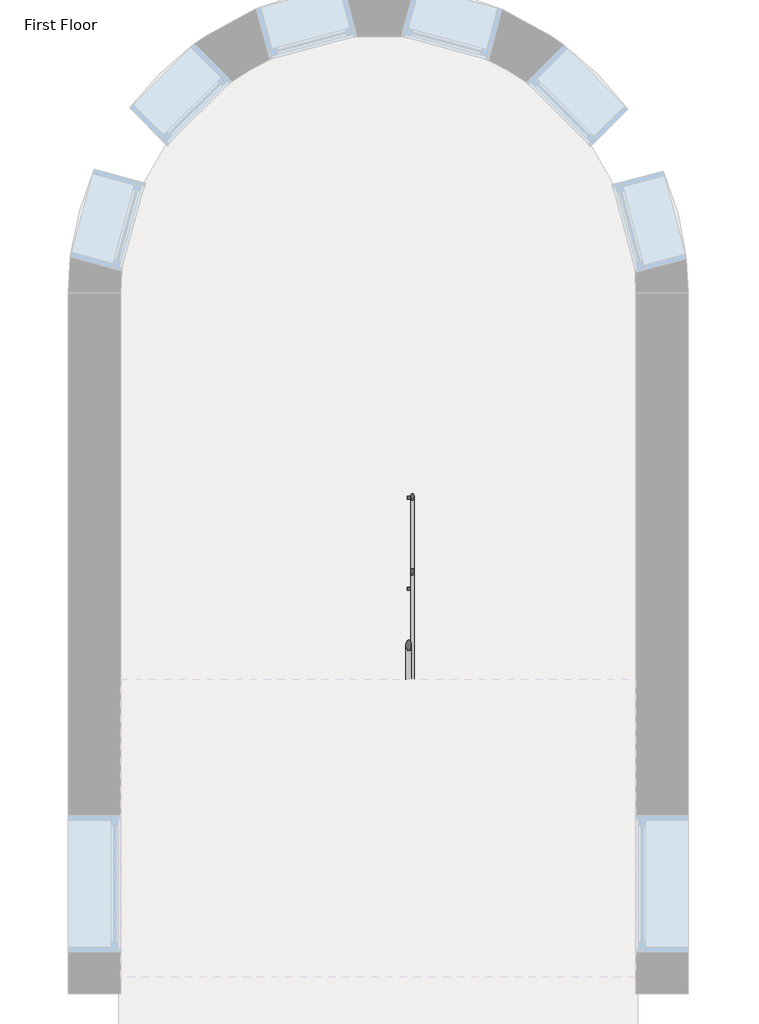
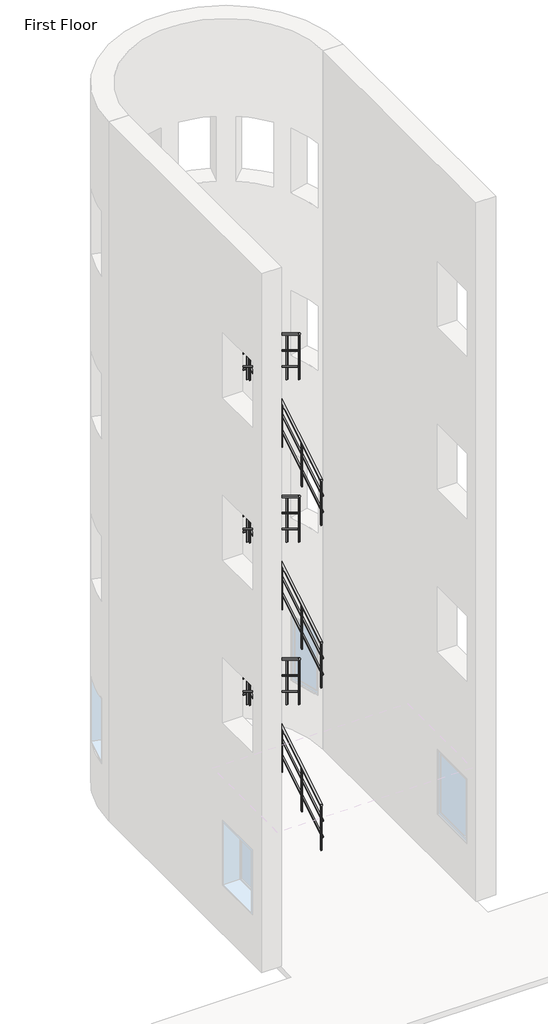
# One storey, part 22 of 24: 1 railing.
"""IFC4 building model written with IfcOpenShell, lengths in millimetres."""

from ifc_helpers import new_model, si_unit, frame, origin, place, context, project, spatial, polyline, circle_curve, ellipse_curve, outline, extrude, element, save
from ifc_brep_helpers import plane_surface, cylinder_surface, advanced_brep

model = new_model("IFC4")

# Units and contexts
model_context = context("Model", 3, world=origin())
ifc_project = project(units=[si_unit("LENGTHUNIT", "METRE", prefix="MILLI")], contexts=[model_context])

# Site, building, storey
site = spatial("IfcSite", under=ifc_project)
building = spatial("IfcBuilding", under=site)
storey = spatial("IfcBuildingStorey", under=building, Name="First Floor", Elevation=0.0)

# Railing
placement = place(None, origin())
element("IfcRailing", 1, ObjectType="Handrail - Rectangular", at=placement, inside=storey, context=model_context, shape_type="SolidModel", body=[
    advanced_brep(
    [(-14693.8714563, 6636.2316867, 6860.0829683), (-14719.2714563, 6636.2316867, 6860.0829683), (-14693.8714563, 8858.7316867, 8207.0526652), (-14719.2714563, 8858.7316867, 8207.0526652)],
    [
        (0, 1, ellipse_curve(frame((-14706.5714563, 6636.2316867, 6860.0829683), z_axis=(0.0, -1.0, 0.0), x_axis=(0.0, 0.0, -1.0)), 14.8503651, 12.7)),
        (1, 0, ellipse_curve(frame((-14706.5714563, 6636.2316867, 6860.0829683), z_axis=(0.0, -1.0, 0.0), x_axis=(0.0, 0.0, -1.0)), 14.8503651, 12.7)),
        (2, 3, ellipse_curve(frame((-14706.5714563, 8858.7316867, 8207.0526652), z_axis=(0.0, 1.0, 0.0), x_axis=(0.0, 0.0, -1.0)), 14.8503651, 12.7)),
        (3, 2, ellipse_curve(frame((-14706.5714563, 8858.7316867, 8207.0526652), z_axis=(0.0, 1.0, 0.0), x_axis=(0.0, 0.0, -1.0)), 14.8503651, 12.7)),
        (0, 2),
        (3, 1),
    ],
    [
        plane_surface(frame((-14706.5714563, 6636.2316867, 6874.9333333), z_axis=(0.0, -1.0, 0.0), x_axis=(0.0, 0.0, 1.0))),
        plane_surface(frame((-14706.5714563, 8858.7316867, 8221.9030303), z_axis=(0.0, 1.0, 0.0), x_axis=(0.0, 0.0, 1.0))),
        cylinder_surface(frame((-14706.5714563, 6642.8141185, 6864.0723209), z_axis=(0.0, -0.8551978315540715, -0.518301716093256), x_axis=(-1.0, 0.0, 0.0)), 12.7),
    ],
    [
        (0, [[1, 2]]),
        (1, [[3, 4]]),
        (2, [[-1, 5, -4, 6]]),
        (2, [[-2, -6, -3, -5]]),
    ],
),
    advanced_brep(
    [(-14693.8714563, 8884.1316867, 8216.9), (-14693.8714563, 8858.7316867, 8216.9), (-15136.7839563, 8884.1316867, 8216.9), (-15136.7839563, 8858.7316867, 8216.9)],
    [
        (0, 1, circle_curve(frame((-14693.8714563, 8871.4316867, 8216.9), z_axis=(1.0, 0.0, 0.0), x_axis=(0.0, -1.0, 0.0)), 12.7)),
        (1, 0, circle_curve(frame((-14693.8714563, 8871.4316867, 8216.9), z_axis=(1.0, 0.0, 0.0), x_axis=(0.0, -1.0, 0.0)), 12.7)),
        (2, 3, circle_curve(frame((-15136.7839563, 8871.4316867, 8216.9), z_axis=(-1.0, 0.0, 0.0), x_axis=(0.0, -1.0, 0.0)), 12.7)),
        (3, 2, circle_curve(frame((-15136.7839563, 8871.4316867, 8216.9), z_axis=(-1.0, 0.0, 0.0), x_axis=(0.0, -1.0, 0.0)), 12.7)),
        (0, 2),
        (3, 1),
    ],
    [
        plane_surface(frame((-14693.8714563, 8871.4316867, 8229.6), z_axis=(1.0, 0.0, 0.0), x_axis=(0.0, -1.0, 0.0))),
        plane_surface(frame((-15136.7839563, 8871.4316867, 8229.6), z_axis=(-1.0, 0.0, 0.0), x_axis=(0.0, -1.0, 0.0))),
        cylinder_surface(frame((-14693.8714563, 8871.4316867, 8216.9), z_axis=(1.0, 0.0, 0.0), x_axis=(0.0, -1.0, 0.0)), 12.7),
    ],
    [
        (0, [[1, 2]]),
        (1, [[3, 4]]),
        (2, [[-1, 5, -4, 6]]),
        (2, [[-2, -6, -3, -5]]),
    ],
),
    advanced_brep(
    [(-15162.1839563, 8884.1316867, 8376.3859986), (-15136.7839563, 8884.1316867, 8376.3859986), (-15162.1839563, 6636.2316867, 9738.7496349), (-15136.7839563, 6636.2316867, 9738.7496349)],
    [
        (0, 1, ellipse_curve(frame((-15149.4839563, 8884.1316867, 8376.3859986), z_axis=(0.0, 1.0, 0.0), x_axis=(0.0, 0.0, -1.0)), 14.8503651, 12.7)),
        (1, 0, ellipse_curve(frame((-15149.4839563, 8884.1316867, 8376.3859986), z_axis=(0.0, 1.0, 0.0), x_axis=(0.0, 0.0, -1.0)), 14.8503651, 12.7)),
        (2, 3, ellipse_curve(frame((-15149.4839563, 6636.2316867, 9738.7496349), z_axis=(0.0, -1.0, 0.0), x_axis=(0.0, 0.0, -1.0)), 14.8503651, 12.7)),
        (3, 2, ellipse_curve(frame((-15149.4839563, 6636.2316867, 9738.7496349), z_axis=(0.0, -1.0, 0.0), x_axis=(0.0, 0.0, -1.0)), 14.8503651, 12.7)),
        (0, 2),
        (3, 1),
    ],
    [
        plane_surface(frame((-15149.4839563, 8884.1316867, 8391.2363636), z_axis=(0.0, 1.0, 0.0), x_axis=(0.0, 0.0, -1.0))),
        plane_surface(frame((-15149.4839563, 6636.2316867, 9753.6), z_axis=(0.0, -1.0, 0.0), x_axis=(0.0, 0.0, -1.0))),
        cylinder_surface(frame((-15149.4839563, 8877.5492549, 8380.3753512), z_axis=(0.0, 0.8551978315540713, -0.5183017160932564), x_axis=(1.0, 0.0, 0.0)), 12.7),
    ],
    [
        (0, [[1, 2]]),
        (1, [[3, 4]]),
        (2, [[-1, 5, -4, 6]]),
        (2, [[-2, -6, -3, -5]]),
    ],
),
    advanced_brep(
    [(-14693.8714563, 6636.2316867, 6555.2829683), (-14719.2714563, 6636.2316867, 6555.2829683), (-14693.8714563, 8858.7316867, 7902.2526652), (-14719.2714563, 8858.7316867, 7902.2526652)],
    [
        (0, 1, ellipse_curve(frame((-14706.5714563, 6636.2316867, 6555.2829683), z_axis=(0.0, -1.0, 0.0), x_axis=(0.0, 0.0, -1.0)), 14.8503651, 12.7)),
        (1, 0, ellipse_curve(frame((-14706.5714563, 6636.2316867, 6555.2829683), z_axis=(0.0, -1.0, 0.0), x_axis=(0.0, 0.0, -1.0)), 14.8503651, 12.7)),
        (2, 3, ellipse_curve(frame((-14706.5714563, 8858.7316867, 7902.2526652), z_axis=(0.0, 1.0, 0.0), x_axis=(0.0, 0.0, -1.0)), 14.8503651, 12.7)),
        (3, 2, ellipse_curve(frame((-14706.5714563, 8858.7316867, 7902.2526652), z_axis=(0.0, 1.0, 0.0), x_axis=(0.0, 0.0, -1.0)), 14.8503651, 12.7)),
        (0, 2),
        (3, 1),
    ],
    [
        plane_surface(frame((-14706.5714563, 6636.2316867, 6570.1333333), z_axis=(0.0, -1.0, 0.0), x_axis=(0.0, 0.0, 1.0))),
        plane_surface(frame((-14706.5714563, 8858.7316867, 7917.1030303), z_axis=(0.0, 1.0, 0.0), x_axis=(0.0, 0.0, 1.0))),
        cylinder_surface(frame((-14706.5714563, 6642.8141185, 6559.2723209), z_axis=(0.0, -0.8551978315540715, -0.518301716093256), x_axis=(-1.0, 0.0, 0.0)), 12.7),
    ],
    [
        (0, [[1, 2]]),
        (1, [[3, 4]]),
        (2, [[-1, 5, -4, 6]]),
        (2, [[-2, -6, -3, -5]]),
    ],
),
    advanced_brep(
    [(-14693.8714563, 8884.1316867, 7912.1), (-14693.8714563, 8858.7316867, 7912.1), (-15136.7839563, 8884.1316867, 7912.1), (-15136.7839563, 8858.7316867, 7912.1)],
    [
        (0, 1, circle_curve(frame((-14693.8714563, 8871.4316867, 7912.1), z_axis=(1.0, 0.0, 0.0), x_axis=(0.0, -1.0, 0.0)), 12.7)),
        (1, 0, circle_curve(frame((-14693.8714563, 8871.4316867, 7912.1), z_axis=(1.0, 0.0, 0.0), x_axis=(0.0, -1.0, 0.0)), 12.7)),
        (2, 3, circle_curve(frame((-15136.7839563, 8871.4316867, 7912.1), z_axis=(-1.0, 0.0, 0.0), x_axis=(0.0, -1.0, 0.0)), 12.7)),
        (3, 2, circle_curve(frame((-15136.7839563, 8871.4316867, 7912.1), z_axis=(-1.0, 0.0, 0.0), x_axis=(0.0, -1.0, 0.0)), 12.7)),
        (0, 2),
        (3, 1),
    ],
    [
        plane_surface(frame((-14693.8714563, 8871.4316867, 7924.8), z_axis=(1.0, 0.0, 0.0), x_axis=(0.0, -1.0, 0.0))),
        plane_surface(frame((-15136.7839563, 8871.4316867, 7924.8), z_axis=(-1.0, 0.0, 0.0), x_axis=(0.0, -1.0, 0.0))),
        cylinder_surface(frame((-14693.8714563, 8871.4316867, 7912.1), z_axis=(1.0, 0.0, 0.0), x_axis=(0.0, -1.0, 0.0)), 12.7),
    ],
    [
        (0, [[1, 2]]),
        (1, [[3, 4]]),
        (2, [[-1, 5, -4, 6]]),
        (2, [[-2, -6, -3, -5]]),
    ],
),
    advanced_brep(
    [(-15162.1839563, 8884.1316867, 8071.5859986), (-15136.7839563, 8884.1316867, 8071.5859986), (-15162.1839563, 6636.2316867, 9433.9496349), (-15136.7839563, 6636.2316867, 9433.9496349)],
    [
        (0, 1, ellipse_curve(frame((-15149.4839563, 8884.1316867, 8071.5859986), z_axis=(0.0, 1.0, 0.0), x_axis=(0.0, 0.0, -1.0)), 14.8503651, 12.7)),
        (1, 0, ellipse_curve(frame((-15149.4839563, 8884.1316867, 8071.5859986), z_axis=(0.0, 1.0, 0.0), x_axis=(0.0, 0.0, -1.0)), 14.8503651, 12.7)),
        (2, 3, ellipse_curve(frame((-15149.4839563, 6636.2316867, 9433.9496349), z_axis=(0.0, -1.0, 0.0), x_axis=(0.0, 0.0, -1.0)), 14.8503651, 12.7)),
        (3, 2, ellipse_curve(frame((-15149.4839563, 6636.2316867, 9433.9496349), z_axis=(0.0, -1.0, 0.0), x_axis=(0.0, 0.0, -1.0)), 14.8503651, 12.7)),
        (0, 2),
        (3, 1),
    ],
    [
        plane_surface(frame((-15149.4839563, 8884.1316867, 8086.4363636), z_axis=(0.0, 1.0, 0.0), x_axis=(0.0, 0.0, -1.0))),
        plane_surface(frame((-15149.4839563, 6636.2316867, 9448.8), z_axis=(0.0, -1.0, 0.0), x_axis=(0.0, 0.0, -1.0))),
        cylinder_surface(frame((-15149.4839563, 8877.5492549, 8075.5753512), z_axis=(0.0, 0.8551978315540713, -0.5183017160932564), x_axis=(1.0, 0.0, 0.0)), 12.7),
    ],
    [
        (0, [[1, 2]]),
        (1, [[3, 4]]),
        (2, [[-1, 5, -4, 6]]),
        (2, [[-2, -6, -3, -5]]),
    ],
),
    advanced_brep(
    [(-14712.9214563, 6636.2316867, 7157.4577857), (-14751.0214563, 6636.2316867, 7157.4577857), (-14712.9214563, 8826.9816867, 8485.1850584), (-14751.0214563, 8826.9816867, 8485.1850584)],
    [
        (0, 1, ellipse_curve(frame((-14731.9714563, 6636.2316867, 7157.4577857), z_axis=(0.0, -1.0, 0.0), x_axis=(0.0, 0.0, -1.0)), 22.2755476, 19.05)),
        (1, 0, ellipse_curve(frame((-14731.9714563, 6636.2316867, 7157.4577857), z_axis=(0.0, -1.0, 0.0), x_axis=(0.0, 0.0, -1.0)), 22.2755476, 19.05)),
        (2, 3, ellipse_curve(frame((-14731.9714563, 8826.9816867, 8485.1850584), z_axis=(0.0, 1.0, 0.0), x_axis=(0.0, 0.0, -1.0)), 22.2755476, 19.05)),
        (3, 2, ellipse_curve(frame((-14731.9714563, 8826.9816867, 8485.1850584), z_axis=(0.0, 1.0, 0.0), x_axis=(0.0, 0.0, -1.0)), 22.2755476, 19.05)),
        (0, 2),
        (3, 1),
    ],
    [
        plane_surface(frame((-14731.9714563, 6636.2316867, 7179.7333333), z_axis=(0.0, -1.0, 0.0), x_axis=(0.0, 0.0, 1.0))),
        plane_surface(frame((-14731.9714563, 8826.9816867, 8507.460606), z_axis=(0.0, 1.0, 0.0), x_axis=(0.0, 0.0, 1.0))),
        cylinder_surface(frame((-14731.9714563, 6646.1053344, 7163.4418146), z_axis=(0.0, -0.8551978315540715, -0.518301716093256), x_axis=(-1.0, 0.0, 0.0)), 19.05),
    ],
    [
        (0, [[1, 2]]),
        (1, [[3, 4]]),
        (2, [[-1, 5, -4, 6]]),
        (2, [[-2, -6, -3, -5]]),
    ],
),
    advanced_brep(
    [(-14712.9214563, 8865.0816867, 8515.35), (-14712.9214563, 8826.9816867, 8515.35), (-15105.0339563, 8865.0816867, 8515.35), (-15105.0339563, 8826.9816867, 8515.35)],
    [
        (0, 1, circle_curve(frame((-14712.9214563, 8846.0316867, 8515.35), z_axis=(1.0, 0.0, 0.0), x_axis=(0.0, -1.0, 0.0)), 19.05)),
        (1, 0, circle_curve(frame((-14712.9214563, 8846.0316867, 8515.35), z_axis=(1.0, 0.0, 0.0), x_axis=(0.0, -1.0, 0.0)), 19.05)),
        (2, 3, circle_curve(frame((-15105.0339563, 8846.0316867, 8515.35), z_axis=(-1.0, 0.0, 0.0), x_axis=(0.0, -1.0, 0.0)), 19.05)),
        (3, 2, circle_curve(frame((-15105.0339563, 8846.0316867, 8515.35), z_axis=(-1.0, 0.0, 0.0), x_axis=(0.0, -1.0, 0.0)), 19.05)),
        (0, 2),
        (3, 1),
    ],
    [
        plane_surface(frame((-14712.9214563, 8846.0316867, 8534.4), z_axis=(1.0, 0.0, 0.0), x_axis=(0.0, -1.0, 0.0))),
        plane_surface(frame((-15105.0339563, 8846.0316867, 8534.4), z_axis=(-1.0, 0.0, 0.0), x_axis=(0.0, -1.0, 0.0))),
        cylinder_surface(frame((-14712.9214563, 8846.0316867, 8515.35), z_axis=(1.0, 0.0, 0.0), x_axis=(0.0, -1.0, 0.0)), 19.05),
    ],
    [
        (0, [[1, 2]]),
        (1, [[3, 4]]),
        (2, [[-1, 5, -4, 6]]),
        (2, [[-2, -6, -3, -5]]),
    ],
),
    advanced_brep(
    [(-15143.1339563, 8865.0816867, 8685.3062706), (-15105.0339563, 8865.0816867, 8685.3062706), (-15143.1339563, 6636.2316867, 10036.1244524), (-15105.0339563, 6636.2316867, 10036.1244524)],
    [
        (0, 1, ellipse_curve(frame((-15124.0839563, 8865.0816867, 8685.3062706), z_axis=(0.0, 1.0, 0.0), x_axis=(0.0, 0.0, -1.0)), 22.2755476, 19.05)),
        (1, 0, ellipse_curve(frame((-15124.0839563, 8865.0816867, 8685.3062706), z_axis=(0.0, 1.0, 0.0), x_axis=(0.0, 0.0, -1.0)), 22.2755476, 19.05)),
        (2, 3, ellipse_curve(frame((-15124.0839563, 6636.2316867, 10036.1244524), z_axis=(0.0, -1.0, 0.0), x_axis=(0.0, 0.0, -1.0)), 22.2755476, 19.05)),
        (3, 2, ellipse_curve(frame((-15124.0839563, 6636.2316867, 10036.1244524), z_axis=(0.0, -1.0, 0.0), x_axis=(0.0, 0.0, -1.0)), 22.2755476, 19.05)),
        (0, 2),
        (3, 1),
    ],
    [
        plane_surface(frame((-15124.0839563, 8865.0816867, 8707.5818182), z_axis=(0.0, 1.0, 0.0), x_axis=(0.0, 0.0, -1.0))),
        plane_surface(frame((-15124.0839563, 6636.2316867, 10058.4), z_axis=(0.0, -1.0, 0.0), x_axis=(0.0, 0.0, -1.0))),
        cylinder_surface(frame((-15124.0839563, 8855.208039, 8691.2902995), z_axis=(0.0, 0.8551978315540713, -0.5183017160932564), x_axis=(1.0, 0.0, 0.0)), 19.05),
    ],
    [
        (0, [[1, 2]]),
        (1, [[3, 4]]),
        (2, [[-1, 5, -4, 6]]),
        (2, [[-2, -6, -3, -5]]),
    ],
),
    extrude(outline(polyline([(7026.7566867, 9777.1670866), (7026.7566867, 8950.0993604), (7007.7066867, 8961.644815), (7007.7066867, 9788.7125412), (7026.7566867, 9777.1670866)])), frame((-15133.6089563, 0.0, 0.0), z_axis=(1.0, 0.0, 0.0), x_axis=(0.0, 1.0, 0.0)), (0.0, 0.0, 1.0), 19.05),
    extrude(outline(polyline([(7636.3566867, 9407.7125412), (7636.3566867, 8580.644815), (7617.3066867, 8592.1902695), (7617.3066867, 9419.2579957), (7636.3566867, 9407.7125412)])), frame((-15133.6089563, 0.0, 0.0), z_axis=(1.0, 0.0, 0.0), x_axis=(0.0, 1.0, 0.0)), (0.0, 0.0, 1.0), 19.05),
    extrude(outline(polyline([(8245.9566867, 9038.2579957), (8245.9566867, 8211.1902695), (8226.9066867, 8222.7357241), (8226.9066867, 9049.8034502), (8245.9566867, 9038.2579957)])), frame((-15133.6089563, 0.0, 0.0), z_axis=(1.0, 0.0, 0.0), x_axis=(0.0, 1.0, 0.0)), (0.0, 0.0, 1.0), 19.05),
    extrude(outline(polyline([(8474.5566867, 8249.3186018), (8474.5566867, 7422.2508756), (8455.5066867, 7410.705421), (8455.5066867, 8237.7731472), (8474.5566867, 8249.3186018)])), frame((-14741.4964563, 0.0, 0.0), z_axis=(1.0, 0.0, 0.0), x_axis=(0.0, 1.0, 0.0)), (0.0, 0.0, 1.0), 19.05),
    extrude(outline(polyline([(7864.9566867, 7879.8640563), (7864.9566867, 7052.7963301), (7845.9066867, 7041.2508756), (7845.9066867, 7868.3186018), (7864.9566867, 7879.8640563)])), frame((-14741.4964563, 0.0, 0.0), z_axis=(1.0, 0.0, 0.0), x_axis=(0.0, 1.0, 0.0)), (0.0, 0.0, 1.0), 19.05),
    extrude(outline(polyline([(7255.3566867, 7510.4095109), (7255.3566867, 6683.3417847), (7236.3066867, 6671.7963301), (7236.3066867, 7498.8640563), (7255.3566867, 7510.4095109)])), frame((-14741.4964563, 0.0, 0.0), z_axis=(1.0, 0.0, 0.0), x_axis=(0.0, 1.0, 0.0)), (0.0, 0.0, 1.0), 19.05),
    extrude(outline(polyline([(8855.5566867, 8668.8034502), (8855.5566867, 7841.7357241), (8836.5066867, 7853.2811786), (8836.5066867, 8680.3489048), (8855.5566867, 8668.8034502)])), frame((-15133.6089563, 0.0, 0.0), z_axis=(1.0, 0.0, 0.0), x_axis=(0.0, 1.0, 0.0)), (0.0, 0.0, 1.0), 19.05),
    extrude(outline(polyline([(-14722.4464563, 8836.5066867), (-14741.4964563, 8836.5066867), (-14741.4964563, 8855.5566867), (-14722.4464563, 8855.5566867), (-14722.4464563, 8836.5066867)])), frame((0.0, 0.0, 7696.2), z_axis=(0.0, 0.0, 1.0), x_axis=(1.0, 0.0, 0.0)), (0.0, 0.0, 1.0), 800.1),
    extrude(outline(polyline([(6655.2816867, 10002.3034502), (6655.2816867, 9175.2357241), (6636.2316867, 9186.7811786), (6636.2316867, 10013.8489048), (6655.2816867, 10002.3034502)])), frame((-15133.6089563, 0.0, 0.0), z_axis=(1.0, 0.0, 0.0), x_axis=(0.0, 1.0, 0.0)), (0.0, 0.0, 1.0), 19.05),
    extrude(outline(polyline([(6655.2816867, 7146.7276927), (6655.2816867, 6319.6599665), (6636.2316867, 6308.1145119), (6636.2316867, 7135.1822381), (6655.2816867, 7146.7276927)])), frame((-14741.4964563, 0.0, 0.0), z_axis=(1.0, 0.0, 0.0), x_axis=(0.0, 1.0, 0.0)), (0.0, 0.0, 1.0), 19.05),
    advanced_brep(
    [(-14693.8714563, 6636.2316867, 3812.0829683), (-14719.2714563, 6636.2316867, 3812.0829683), (-14693.8714563, 8858.7316867, 5159.0526652), (-14719.2714563, 8858.7316867, 5159.0526652)],
    [
        (0, 1, ellipse_curve(frame((-14706.5714563, 6636.2316867, 3812.0829683), z_axis=(0.0, -1.0, 0.0), x_axis=(0.0, 0.0, -1.0)), 14.8503651, 12.7)),
        (1, 0, ellipse_curve(frame((-14706.5714563, 6636.2316867, 3812.0829683), z_axis=(0.0, -1.0, 0.0), x_axis=(0.0, 0.0, -1.0)), 14.8503651, 12.7)),
        (2, 3, ellipse_curve(frame((-14706.5714563, 8858.7316867, 5159.0526652), z_axis=(0.0, 1.0, 0.0), x_axis=(0.0, 0.0, -1.0)), 14.8503651, 12.7)),
        (3, 2, ellipse_curve(frame((-14706.5714563, 8858.7316867, 5159.0526652), z_axis=(0.0, 1.0, 0.0), x_axis=(0.0, 0.0, -1.0)), 14.8503651, 12.7)),
        (0, 2),
        (3, 1),
    ],
    [
        plane_surface(frame((-14706.5714563, 6636.2316867, 3826.9333333), z_axis=(0.0, -1.0, 0.0), x_axis=(0.0, 0.0, 1.0))),
        plane_surface(frame((-14706.5714563, 8858.7316867, 5173.9030303), z_axis=(0.0, 1.0, 0.0), x_axis=(0.0, 0.0, 1.0))),
        cylinder_surface(frame((-14706.5714563, 6642.8141185, 3816.0723209), z_axis=(0.0, -0.8551978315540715, -0.518301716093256), x_axis=(-1.0, 0.0, 0.0)), 12.7),
    ],
    [
        (0, [[1, 2]]),
        (1, [[3, 4]]),
        (2, [[-1, 5, -4, 6]]),
        (2, [[-2, -6, -3, -5]]),
    ],
),
    advanced_brep(
    [(-14693.8714563, 8884.1316867, 5168.9), (-14693.8714563, 8858.7316867, 5168.9), (-15136.7839563, 8884.1316867, 5168.9), (-15136.7839563, 8858.7316867, 5168.9)],
    [
        (0, 1, circle_curve(frame((-14693.8714563, 8871.4316867, 5168.9), z_axis=(1.0, 0.0, 0.0), x_axis=(0.0, -1.0, 0.0)), 12.7)),
        (1, 0, circle_curve(frame((-14693.8714563, 8871.4316867, 5168.9), z_axis=(1.0, 0.0, 0.0), x_axis=(0.0, -1.0, 0.0)), 12.7)),
        (2, 3, circle_curve(frame((-15136.7839563, 8871.4316867, 5168.9), z_axis=(-1.0, 0.0, 0.0), x_axis=(0.0, -1.0, 0.0)), 12.7)),
        (3, 2, circle_curve(frame((-15136.7839563, 8871.4316867, 5168.9), z_axis=(-1.0, 0.0, 0.0), x_axis=(0.0, -1.0, 0.0)), 12.7)),
        (0, 2),
        (3, 1),
    ],
    [
        plane_surface(frame((-14693.8714563, 8871.4316867, 5181.6), z_axis=(1.0, 0.0, 0.0), x_axis=(0.0, -1.0, 0.0))),
        plane_surface(frame((-15136.7839563, 8871.4316867, 5181.6), z_axis=(-1.0, 0.0, 0.0), x_axis=(0.0, -1.0, 0.0))),
        cylinder_surface(frame((-14693.8714563, 8871.4316867, 5168.9), z_axis=(1.0, 0.0, 0.0), x_axis=(0.0, -1.0, 0.0)), 12.7),
    ],
    [
        (0, [[1, 2]]),
        (1, [[3, 4]]),
        (2, [[-1, 5, -4, 6]]),
        (2, [[-2, -6, -3, -5]]),
    ],
),
    advanced_brep(
    [(-15162.1839563, 8884.1316867, 5328.3859986), (-15136.7839563, 8884.1316867, 5328.3859986), (-15162.1839563, 6636.2316867, 6690.7496349), (-15136.7839563, 6636.2316867, 6690.7496349)],
    [
        (0, 1, ellipse_curve(frame((-15149.4839563, 8884.1316867, 5328.3859986), z_axis=(0.0, 1.0, 0.0), x_axis=(0.0, 0.0, -1.0)), 14.8503651, 12.7)),
        (1, 0, ellipse_curve(frame((-15149.4839563, 8884.1316867, 5328.3859986), z_axis=(0.0, 1.0, 0.0), x_axis=(0.0, 0.0, -1.0)), 14.8503651, 12.7)),
        (2, 3, ellipse_curve(frame((-15149.4839563, 6636.2316867, 6690.7496349), z_axis=(0.0, -1.0, 0.0), x_axis=(0.0, 0.0, -1.0)), 14.8503651, 12.7)),
        (3, 2, ellipse_curve(frame((-15149.4839563, 6636.2316867, 6690.7496349), z_axis=(0.0, -1.0, 0.0), x_axis=(0.0, 0.0, -1.0)), 14.8503651, 12.7)),
        (0, 2),
        (3, 1),
    ],
    [
        plane_surface(frame((-15149.4839563, 8884.1316867, 5343.2363636), z_axis=(0.0, 1.0, 0.0), x_axis=(0.0, 0.0, -1.0))),
        plane_surface(frame((-15149.4839563, 6636.2316867, 6705.6), z_axis=(0.0, -1.0, 0.0), x_axis=(0.0, 0.0, -1.0))),
        cylinder_surface(frame((-15149.4839563, 8877.5492549, 5332.3753512), z_axis=(0.0, 0.8551978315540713, -0.5183017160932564), x_axis=(1.0, 0.0, 0.0)), 12.7),
    ],
    [
        (0, [[1, 2]]),
        (1, [[3, 4]]),
        (2, [[-1, 5, -4, 6]]),
        (2, [[-2, -6, -3, -5]]),
    ],
),
    advanced_brep(
    [(-14693.8714563, 6636.2316867, 3507.2829683), (-14719.2714563, 6636.2316867, 3507.2829683), (-14693.8714563, 8858.7316867, 4854.2526652), (-14719.2714563, 8858.7316867, 4854.2526652)],
    [
        (0, 1, ellipse_curve(frame((-14706.5714563, 6636.2316867, 3507.2829683), z_axis=(0.0, -1.0, 0.0), x_axis=(0.0, 0.0, -1.0)), 14.8503651, 12.7)),
        (1, 0, ellipse_curve(frame((-14706.5714563, 6636.2316867, 3507.2829683), z_axis=(0.0, -1.0, 0.0), x_axis=(0.0, 0.0, -1.0)), 14.8503651, 12.7)),
        (2, 3, ellipse_curve(frame((-14706.5714563, 8858.7316867, 4854.2526652), z_axis=(0.0, 1.0, 0.0), x_axis=(0.0, 0.0, -1.0)), 14.8503651, 12.7)),
        (3, 2, ellipse_curve(frame((-14706.5714563, 8858.7316867, 4854.2526652), z_axis=(0.0, 1.0, 0.0), x_axis=(0.0, 0.0, -1.0)), 14.8503651, 12.7)),
        (0, 2),
        (3, 1),
    ],
    [
        plane_surface(frame((-14706.5714563, 6636.2316867, 3522.1333333), z_axis=(0.0, -1.0, 0.0), x_axis=(0.0, 0.0, 1.0))),
        plane_surface(frame((-14706.5714563, 8858.7316867, 4869.1030303), z_axis=(0.0, 1.0, 0.0), x_axis=(0.0, 0.0, 1.0))),
        cylinder_surface(frame((-14706.5714563, 6642.8141185, 3511.2723209), z_axis=(0.0, -0.8551978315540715, -0.518301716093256), x_axis=(-1.0, 0.0, 0.0)), 12.7),
    ],
    [
        (0, [[1, 2]]),
        (1, [[3, 4]]),
        (2, [[-1, 5, -4, 6]]),
        (2, [[-2, -6, -3, -5]]),
    ],
),
    advanced_brep(
    [(-14693.8714563, 8884.1316867, 4864.1), (-14693.8714563, 8858.7316867, 4864.1), (-15136.7839563, 8884.1316867, 4864.1), (-15136.7839563, 8858.7316867, 4864.1)],
    [
        (0, 1, circle_curve(frame((-14693.8714563, 8871.4316867, 4864.1), z_axis=(1.0, 0.0, 0.0), x_axis=(0.0, -1.0, 0.0)), 12.7)),
        (1, 0, circle_curve(frame((-14693.8714563, 8871.4316867, 4864.1), z_axis=(1.0, 0.0, 0.0), x_axis=(0.0, -1.0, 0.0)), 12.7)),
        (2, 3, circle_curve(frame((-15136.7839563, 8871.4316867, 4864.1), z_axis=(-1.0, 0.0, 0.0), x_axis=(0.0, -1.0, 0.0)), 12.7)),
        (3, 2, circle_curve(frame((-15136.7839563, 8871.4316867, 4864.1), z_axis=(-1.0, 0.0, 0.0), x_axis=(0.0, -1.0, 0.0)), 12.7)),
        (0, 2),
        (3, 1),
    ],
    [
        plane_surface(frame((-14693.8714563, 8871.4316867, 4876.8), z_axis=(1.0, 0.0, 0.0), x_axis=(0.0, -1.0, 0.0))),
        plane_surface(frame((-15136.7839563, 8871.4316867, 4876.8), z_axis=(-1.0, 0.0, 0.0), x_axis=(0.0, -1.0, 0.0))),
        cylinder_surface(frame((-14693.8714563, 8871.4316867, 4864.1), z_axis=(1.0, 0.0, 0.0), x_axis=(0.0, -1.0, 0.0)), 12.7),
    ],
    [
        (0, [[1, 2]]),
        (1, [[3, 4]]),
        (2, [[-1, 5, -4, 6]]),
        (2, [[-2, -6, -3, -5]]),
    ],
),
    advanced_brep(
    [(-15162.1839563, 8884.1316867, 5023.5859986), (-15136.7839563, 8884.1316867, 5023.5859986), (-15162.1839563, 6636.2316867, 6385.9496349), (-15136.7839563, 6636.2316867, 6385.9496349)],
    [
        (0, 1, ellipse_curve(frame((-15149.4839563, 8884.1316867, 5023.5859986), z_axis=(0.0, 1.0, 0.0), x_axis=(0.0, 0.0, -1.0)), 14.8503651, 12.7)),
        (1, 0, ellipse_curve(frame((-15149.4839563, 8884.1316867, 5023.5859986), z_axis=(0.0, 1.0, 0.0), x_axis=(0.0, 0.0, -1.0)), 14.8503651, 12.7)),
        (2, 3, ellipse_curve(frame((-15149.4839563, 6636.2316867, 6385.9496349), z_axis=(0.0, -1.0, 0.0), x_axis=(0.0, 0.0, -1.0)), 14.8503651, 12.7)),
        (3, 2, ellipse_curve(frame((-15149.4839563, 6636.2316867, 6385.9496349), z_axis=(0.0, -1.0, 0.0), x_axis=(0.0, 0.0, -1.0)), 14.8503651, 12.7)),
        (0, 2),
        (3, 1),
    ],
    [
        plane_surface(frame((-15149.4839563, 8884.1316867, 5038.4363636), z_axis=(0.0, 1.0, 0.0), x_axis=(0.0, 0.0, -1.0))),
        plane_surface(frame((-15149.4839563, 6636.2316867, 6400.8), z_axis=(0.0, -1.0, 0.0), x_axis=(0.0, 0.0, -1.0))),
        cylinder_surface(frame((-15149.4839563, 8877.5492549, 5027.5753512), z_axis=(0.0, 0.8551978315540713, -0.5183017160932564), x_axis=(1.0, 0.0, 0.0)), 12.7),
    ],
    [
        (0, [[1, 2]]),
        (1, [[3, 4]]),
        (2, [[-1, 5, -4, 6]]),
        (2, [[-2, -6, -3, -5]]),
    ],
),
    advanced_brep(
    [(-14712.9214563, 6636.2316867, 4109.4577857), (-14751.0214563, 6636.2316867, 4109.4577857), (-14712.9214563, 8826.9816867, 5437.1850585), (-14751.0214563, 8826.9816867, 5437.1850585)],
    [
        (0, 1, ellipse_curve(frame((-14731.9714563, 6636.2316867, 4109.4577857), z_axis=(0.0, -1.0, 0.0), x_axis=(0.0, 0.0, -1.0)), 22.2755476, 19.05)),
        (1, 0, ellipse_curve(frame((-14731.9714563, 6636.2316867, 4109.4577857), z_axis=(0.0, -1.0, 0.0), x_axis=(0.0, 0.0, -1.0)), 22.2755476, 19.05)),
        (2, 3, ellipse_curve(frame((-14731.9714563, 8826.9816867, 5437.1850585), z_axis=(0.0, 1.0, 0.0), x_axis=(0.0, 0.0, -1.0)), 22.2755476, 19.05)),
        (3, 2, ellipse_curve(frame((-14731.9714563, 8826.9816867, 5437.1850585), z_axis=(0.0, 1.0, 0.0), x_axis=(0.0, 0.0, -1.0)), 22.2755476, 19.05)),
        (0, 2),
        (3, 1),
    ],
    [
        plane_surface(frame((-14731.9714563, 6636.2316867, 4131.7333333), z_axis=(0.0, -1.0, 0.0), x_axis=(0.0, 0.0, 1.0))),
        plane_surface(frame((-14731.9714563, 8826.9816867, 5459.4606061), z_axis=(0.0, 1.0, 0.0), x_axis=(0.0, 0.0, 1.0))),
        cylinder_surface(frame((-14731.9714563, 6646.1053344, 4115.4418146), z_axis=(0.0, -0.8551978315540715, -0.518301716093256), x_axis=(-1.0, 0.0, 0.0)), 19.05),
    ],
    [
        (0, [[1, 2]]),
        (1, [[3, 4]]),
        (2, [[-1, 5, -4, 6]]),
        (2, [[-2, -6, -3, -5]]),
    ],
),
    advanced_brep(
    [(-14712.9214563, 8865.0816867, 5467.35), (-14712.9214563, 8826.9816867, 5467.35), (-15105.0339563, 8865.0816867, 5467.35), (-15105.0339563, 8826.9816867, 5467.35)],
    [
        (0, 1, circle_curve(frame((-14712.9214563, 8846.0316867, 5467.35), z_axis=(1.0, 0.0, 0.0), x_axis=(0.0, -1.0, 0.0)), 19.05)),
        (1, 0, circle_curve(frame((-14712.9214563, 8846.0316867, 5467.35), z_axis=(1.0, 0.0, 0.0), x_axis=(0.0, -1.0, 0.0)), 19.05)),
        (2, 3, circle_curve(frame((-15105.0339563, 8846.0316867, 5467.35), z_axis=(-1.0, 0.0, 0.0), x_axis=(0.0, -1.0, 0.0)), 19.05)),
        (3, 2, circle_curve(frame((-15105.0339563, 8846.0316867, 5467.35), z_axis=(-1.0, 0.0, 0.0), x_axis=(0.0, -1.0, 0.0)), 19.05)),
        (0, 2),
        (3, 1),
    ],
    [
        plane_surface(frame((-14712.9214563, 8846.0316867, 5486.4), z_axis=(1.0, 0.0, 0.0), x_axis=(0.0, -1.0, 0.0))),
        plane_surface(frame((-15105.0339563, 8846.0316867, 5486.4), z_axis=(-1.0, 0.0, 0.0), x_axis=(0.0, -1.0, 0.0))),
        cylinder_surface(frame((-14712.9214563, 8846.0316867, 5467.35), z_axis=(1.0, 0.0, 0.0), x_axis=(0.0, -1.0, 0.0)), 19.05),
    ],
    [
        (0, [[1, 2]]),
        (1, [[3, 4]]),
        (2, [[-1, 5, -4, 6]]),
        (2, [[-2, -6, -3, -5]]),
    ],
),
    advanced_brep(
    [(-15143.1339563, 8865.0816867, 5637.3062706), (-15105.0339563, 8865.0816867, 5637.3062706), (-15143.1339563, 6636.2316867, 6988.1244524), (-15105.0339563, 6636.2316867, 6988.1244524)],
    [
        (0, 1, ellipse_curve(frame((-15124.0839563, 8865.0816867, 5637.3062706), z_axis=(0.0, 1.0, 0.0), x_axis=(0.0, 0.0, -1.0)), 22.2755476, 19.05)),
        (1, 0, ellipse_curve(frame((-15124.0839563, 8865.0816867, 5637.3062706), z_axis=(0.0, 1.0, 0.0), x_axis=(0.0, 0.0, -1.0)), 22.2755476, 19.05)),
        (2, 3, ellipse_curve(frame((-15124.0839563, 6636.2316867, 6988.1244524), z_axis=(0.0, -1.0, 0.0), x_axis=(0.0, 0.0, -1.0)), 22.2755476, 19.05)),
        (3, 2, ellipse_curve(frame((-15124.0839563, 6636.2316867, 6988.1244524), z_axis=(0.0, -1.0, 0.0), x_axis=(0.0, 0.0, -1.0)), 22.2755476, 19.05)),
        (0, 2),
        (3, 1),
    ],
    [
        plane_surface(frame((-15124.0839563, 8865.0816867, 5659.5818182), z_axis=(0.0, 1.0, 0.0), x_axis=(0.0, 0.0, -1.0))),
        plane_surface(frame((-15124.0839563, 6636.2316867, 7010.4), z_axis=(0.0, -1.0, 0.0), x_axis=(0.0, 0.0, -1.0))),
        cylinder_surface(frame((-15124.0839563, 8855.208039, 5643.2902995), z_axis=(0.0, 0.8551978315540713, -0.5183017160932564), x_axis=(1.0, 0.0, 0.0)), 19.05),
    ],
    [
        (0, [[1, 2]]),
        (1, [[3, 4]]),
        (2, [[-1, 5, -4, 6]]),
        (2, [[-2, -6, -3, -5]]),
    ],
),
    extrude(outline(polyline([(7026.7566867, 6729.1670866), (7026.7566867, 5902.0993604), (7007.7066867, 5913.644815), (7007.7066867, 6740.7125412), (7026.7566867, 6729.1670866)])), frame((-15133.6089563, 0.0, 0.0), z_axis=(1.0, 0.0, 0.0), x_axis=(0.0, 1.0, 0.0)), (0.0, 0.0, 1.0), 19.05),
    extrude(outline(polyline([(7636.3566867, 6359.7125412), (7636.3566867, 5532.644815), (7617.3066867, 5544.1902695), (7617.3066867, 6371.2579957), (7636.3566867, 6359.7125412)])), frame((-15133.6089563, 0.0, 0.0), z_axis=(1.0, 0.0, 0.0), x_axis=(0.0, 1.0, 0.0)), (0.0, 0.0, 1.0), 19.05),
    extrude(outline(polyline([(8245.9566867, 5990.2579957), (8245.9566867, 5163.1902695), (8226.9066867, 5174.7357241), (8226.9066867, 6001.8034503), (8245.9566867, 5990.2579957)])), frame((-15133.6089563, 0.0, 0.0), z_axis=(1.0, 0.0, 0.0), x_axis=(0.0, 1.0, 0.0)), (0.0, 0.0, 1.0), 19.05),
    extrude(outline(polyline([(8474.5566867, 5201.3186018), (8474.5566867, 4374.2508756), (8455.5066867, 4362.705421), (8455.5066867, 5189.7731472), (8474.5566867, 5201.3186018)])), frame((-14741.4964563, 0.0, 0.0), z_axis=(1.0, 0.0, 0.0), x_axis=(0.0, 1.0, 0.0)), (0.0, 0.0, 1.0), 19.05),
    extrude(outline(polyline([(7864.9566867, 4831.8640563), (7864.9566867, 4004.7963301), (7845.9066867, 3993.2508756), (7845.9066867, 4820.3186018), (7864.9566867, 4831.8640563)])), frame((-14741.4964563, 0.0, 0.0), z_axis=(1.0, 0.0, 0.0), x_axis=(0.0, 1.0, 0.0)), (0.0, 0.0, 1.0), 19.05),
    extrude(outline(polyline([(7255.3566867, 4462.4095109), (7255.3566867, 3635.3417847), (7236.3066867, 3623.7963301), (7236.3066867, 4450.8640563), (7255.3566867, 4462.4095109)])), frame((-14741.4964563, 0.0, 0.0), z_axis=(1.0, 0.0, 0.0), x_axis=(0.0, 1.0, 0.0)), (0.0, 0.0, 1.0), 19.05),
    extrude(outline(polyline([(8855.5566867, 5620.8034503), (8855.5566867, 4793.7357241), (8836.5066867, 4805.2811786), (8836.5066867, 5632.3489048), (8855.5566867, 5620.8034503)])), frame((-15133.6089563, 0.0, 0.0), z_axis=(1.0, 0.0, 0.0), x_axis=(0.0, 1.0, 0.0)), (0.0, 0.0, 1.0), 19.05),
    extrude(outline(polyline([(-14722.4464563, 8836.5066867), (-14741.4964563, 8836.5066867), (-14741.4964563, 8855.5566867), (-14722.4464563, 8855.5566867), (-14722.4464563, 8836.5066867)])), frame((0.0, 0.0, 4648.2), z_axis=(0.0, 0.0, 1.0), x_axis=(1.0, 0.0, 0.0)), (0.0, 0.0, 1.0), 800.1),
    extrude(outline(polyline([(6655.2816867, 6954.3034503), (6655.2816867, 6127.2357241), (6636.2316867, 6138.7811786), (6636.2316867, 6965.8489048), (6655.2816867, 6954.3034503)])), frame((-15133.6089563, 0.0, 0.0), z_axis=(1.0, 0.0, 0.0), x_axis=(0.0, 1.0, 0.0)), (0.0, 0.0, 1.0), 19.05),
    extrude(outline(polyline([(6655.2816867, 4098.7276927), (6655.2816867, 3271.6599665), (6636.2316867, 3260.114512), (6636.2316867, 4087.1822381), (6655.2816867, 4098.7276927)])), frame((-14741.4964563, 0.0, 0.0), z_axis=(1.0, 0.0, 0.0), x_axis=(0.0, 1.0, 0.0)), (0.0, 0.0, 1.0), 19.05),
    advanced_brep(
    [(-14693.8714563, 6636.2316867, 764.0829683), (-14719.2714563, 6636.2316867, 764.0829683), (-14693.8714563, 8858.7316867, 2111.0526652), (-14719.2714563, 8858.7316867, 2111.0526652)],
    [
        (0, 1, ellipse_curve(frame((-14706.5714563, 6636.2316867, 764.0829683), z_axis=(0.0, -1.0, 0.0), x_axis=(0.0, 0.0, -1.0)), 14.8503651, 12.7)),
        (1, 0, ellipse_curve(frame((-14706.5714563, 6636.2316867, 764.0829683), z_axis=(0.0, -1.0, 0.0), x_axis=(0.0, 0.0, -1.0)), 14.8503651, 12.7)),
        (2, 3, ellipse_curve(frame((-14706.5714563, 8858.7316867, 2111.0526652), z_axis=(0.0, 1.0, 0.0), x_axis=(0.0, 0.0, -1.0)), 14.8503651, 12.7)),
        (3, 2, ellipse_curve(frame((-14706.5714563, 8858.7316867, 2111.0526652), z_axis=(0.0, 1.0, 0.0), x_axis=(0.0, 0.0, -1.0)), 14.8503651, 12.7)),
        (0, 2),
        (3, 1),
    ],
    [
        plane_surface(frame((-14706.5714563, 6636.2316867, 778.9333333), z_axis=(0.0, -1.0, 0.0), x_axis=(0.0, 0.0, 1.0))),
        plane_surface(frame((-14706.5714563, 8858.7316867, 2125.9030303), z_axis=(0.0, 1.0, 0.0), x_axis=(0.0, 0.0, 1.0))),
        cylinder_surface(frame((-14706.5714563, 6642.8141185, 768.0723209), z_axis=(0.0, -0.8551978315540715, -0.518301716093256), x_axis=(-1.0, 0.0, 0.0)), 12.7),
    ],
    [
        (0, [[1, 2]]),
        (1, [[3, 4]]),
        (2, [[-1, 5, -4, 6]]),
        (2, [[-2, -6, -3, -5]]),
    ],
),
    advanced_brep(
    [(-14693.8714563, 8884.1316867, 2120.9), (-14693.8714563, 8858.7316867, 2120.9), (-15136.7839563, 8884.1316867, 2120.9), (-15136.7839563, 8858.7316867, 2120.9)],
    [
        (0, 1, circle_curve(frame((-14693.8714563, 8871.4316867, 2120.9), z_axis=(1.0, 0.0, 0.0), x_axis=(0.0, -1.0, 0.0)), 12.7)),
        (1, 0, circle_curve(frame((-14693.8714563, 8871.4316867, 2120.9), z_axis=(1.0, 0.0, 0.0), x_axis=(0.0, -1.0, 0.0)), 12.7)),
        (2, 3, circle_curve(frame((-15136.7839563, 8871.4316867, 2120.9), z_axis=(-1.0, 0.0, 0.0), x_axis=(0.0, -1.0, 0.0)), 12.7)),
        (3, 2, circle_curve(frame((-15136.7839563, 8871.4316867, 2120.9), z_axis=(-1.0, 0.0, 0.0), x_axis=(0.0, -1.0, 0.0)), 12.7)),
        (0, 2),
        (3, 1),
    ],
    [
        plane_surface(frame((-14693.8714563, 8871.4316867, 2133.6), z_axis=(1.0, 0.0, 0.0), x_axis=(0.0, -1.0, 0.0))),
        plane_surface(frame((-15136.7839563, 8871.4316867, 2133.6), z_axis=(-1.0, 0.0, 0.0), x_axis=(0.0, -1.0, 0.0))),
        cylinder_surface(frame((-14693.8714563, 8871.4316867, 2120.9), z_axis=(1.0, 0.0, 0.0), x_axis=(0.0, -1.0, 0.0)), 12.7),
    ],
    [
        (0, [[1, 2]]),
        (1, [[3, 4]]),
        (2, [[-1, 5, -4, 6]]),
        (2, [[-2, -6, -3, -5]]),
    ],
),
    advanced_brep(
    [(-15162.1839563, 8884.1316867, 2280.3859986), (-15136.7839563, 8884.1316867, 2280.3859986), (-15162.1839563, 6636.2316867, 3642.7496349), (-15136.7839563, 6636.2316867, 3642.7496349)],
    [
        (0, 1, ellipse_curve(frame((-15149.4839563, 8884.1316867, 2280.3859986), z_axis=(0.0, 1.0, 0.0), x_axis=(0.0, 0.0, -1.0)), 14.8503651, 12.7)),
        (1, 0, ellipse_curve(frame((-15149.4839563, 8884.1316867, 2280.3859986), z_axis=(0.0, 1.0, 0.0), x_axis=(0.0, 0.0, -1.0)), 14.8503651, 12.7)),
        (2, 3, ellipse_curve(frame((-15149.4839563, 6636.2316867, 3642.7496349), z_axis=(0.0, -1.0, 0.0), x_axis=(0.0, 0.0, -1.0)), 14.8503651, 12.7)),
        (3, 2, ellipse_curve(frame((-15149.4839563, 6636.2316867, 3642.7496349), z_axis=(0.0, -1.0, 0.0), x_axis=(0.0, 0.0, -1.0)), 14.8503651, 12.7)),
        (0, 2),
        (3, 1),
    ],
    [
        plane_surface(frame((-15149.4839563, 8884.1316867, 2295.2363636), z_axis=(0.0, 1.0, 0.0), x_axis=(0.0, 0.0, -1.0))),
        plane_surface(frame((-15149.4839563, 6636.2316867, 3657.6), z_axis=(0.0, -1.0, 0.0), x_axis=(0.0, 0.0, -1.0))),
        cylinder_surface(frame((-15149.4839563, 8877.5492549, 2284.3753512), z_axis=(0.0, 0.8551978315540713, -0.5183017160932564), x_axis=(1.0, 0.0, 0.0)), 12.7),
    ],
    [
        (0, [[1, 2]]),
        (1, [[3, 4]]),
        (2, [[-1, 5, -4, 6]]),
        (2, [[-2, -6, -3, -5]]),
    ],
),
    advanced_brep(
    [(-14693.8714563, 6636.2316867, 459.2829683), (-14719.2714563, 6636.2316867, 459.2829683), (-14693.8714563, 8858.7316867, 1806.2526652), (-14719.2714563, 8858.7316867, 1806.2526652)],
    [
        (0, 1, ellipse_curve(frame((-14706.5714563, 6636.2316867, 459.2829683), z_axis=(0.0, -1.0, 0.0), x_axis=(0.0, 0.0, -1.0)), 14.8503651, 12.7)),
        (1, 0, ellipse_curve(frame((-14706.5714563, 6636.2316867, 459.2829683), z_axis=(0.0, -1.0, 0.0), x_axis=(0.0, 0.0, -1.0)), 14.8503651, 12.7)),
        (2, 3, ellipse_curve(frame((-14706.5714563, 8858.7316867, 1806.2526652), z_axis=(0.0, 1.0, 0.0), x_axis=(0.0, 0.0, -1.0)), 14.8503651, 12.7)),
        (3, 2, ellipse_curve(frame((-14706.5714563, 8858.7316867, 1806.2526652), z_axis=(0.0, 1.0, 0.0), x_axis=(0.0, 0.0, -1.0)), 14.8503651, 12.7)),
        (0, 2),
        (3, 1),
    ],
    [
        plane_surface(frame((-14706.5714563, 6636.2316867, 474.1333333), z_axis=(0.0, -1.0, 0.0), x_axis=(0.0, 0.0, 1.0))),
        plane_surface(frame((-14706.5714563, 8858.7316867, 1821.1030303), z_axis=(0.0, 1.0, 0.0), x_axis=(0.0, 0.0, 1.0))),
        cylinder_surface(frame((-14706.5714563, 6642.8141185, 463.2723209), z_axis=(0.0, -0.8551978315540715, -0.518301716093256), x_axis=(-1.0, 0.0, 0.0)), 12.7),
    ],
    [
        (0, [[1, 2]]),
        (1, [[3, 4]]),
        (2, [[-1, 5, -4, 6]]),
        (2, [[-2, -6, -3, -5]]),
    ],
),
    advanced_brep(
    [(-14693.8714563, 8884.1316867, 1816.1), (-14693.8714563, 8858.7316867, 1816.1), (-15136.7839563, 8884.1316867, 1816.1), (-15136.7839563, 8858.7316867, 1816.1)],
    [
        (0, 1, circle_curve(frame((-14693.8714563, 8871.4316867, 1816.1), z_axis=(1.0, 0.0, 0.0), x_axis=(0.0, -1.0, 0.0)), 12.7)),
        (1, 0, circle_curve(frame((-14693.8714563, 8871.4316867, 1816.1), z_axis=(1.0, 0.0, 0.0), x_axis=(0.0, -1.0, 0.0)), 12.7)),
        (2, 3, circle_curve(frame((-15136.7839563, 8871.4316867, 1816.1), z_axis=(-1.0, 0.0, 0.0), x_axis=(0.0, -1.0, 0.0)), 12.7)),
        (3, 2, circle_curve(frame((-15136.7839563, 8871.4316867, 1816.1), z_axis=(-1.0, 0.0, 0.0), x_axis=(0.0, -1.0, 0.0)), 12.7)),
        (0, 2),
        (3, 1),
    ],
    [
        plane_surface(frame((-14693.8714563, 8871.4316867, 1828.8), z_axis=(1.0, 0.0, 0.0), x_axis=(0.0, -1.0, 0.0))),
        plane_surface(frame((-15136.7839563, 8871.4316867, 1828.8), z_axis=(-1.0, 0.0, 0.0), x_axis=(0.0, -1.0, 0.0))),
        cylinder_surface(frame((-14693.8714563, 8871.4316867, 1816.1), z_axis=(1.0, 0.0, 0.0), x_axis=(0.0, -1.0, 0.0)), 12.7),
    ],
    [
        (0, [[1, 2]]),
        (1, [[3, 4]]),
        (2, [[-1, 5, -4, 6]]),
        (2, [[-2, -6, -3, -5]]),
    ],
),
    advanced_brep(
    [(-15162.1839563, 8884.1316867, 1975.5859986), (-15136.7839563, 8884.1316867, 1975.5859986), (-15162.1839563, 6636.2316867, 3337.9496349), (-15136.7839563, 6636.2316867, 3337.9496349)],
    [
        (0, 1, ellipse_curve(frame((-15149.4839563, 8884.1316867, 1975.5859986), z_axis=(0.0, 1.0, 0.0), x_axis=(0.0, 0.0, -1.0)), 14.8503651, 12.7)),
        (1, 0, ellipse_curve(frame((-15149.4839563, 8884.1316867, 1975.5859986), z_axis=(0.0, 1.0, 0.0), x_axis=(0.0, 0.0, -1.0)), 14.8503651, 12.7)),
        (2, 3, ellipse_curve(frame((-15149.4839563, 6636.2316867, 3337.9496349), z_axis=(0.0, -1.0, 0.0), x_axis=(0.0, 0.0, -1.0)), 14.8503651, 12.7)),
        (3, 2, ellipse_curve(frame((-15149.4839563, 6636.2316867, 3337.9496349), z_axis=(0.0, -1.0, 0.0), x_axis=(0.0, 0.0, -1.0)), 14.8503651, 12.7)),
        (0, 2),
        (3, 1),
    ],
    [
        plane_surface(frame((-15149.4839563, 8884.1316867, 1990.4363636), z_axis=(0.0, 1.0, 0.0), x_axis=(0.0, 0.0, -1.0))),
        plane_surface(frame((-15149.4839563, 6636.2316867, 3352.8), z_axis=(0.0, -1.0, 0.0), x_axis=(0.0, 0.0, -1.0))),
        cylinder_surface(frame((-15149.4839563, 8877.5492549, 1979.5753512), z_axis=(0.0, 0.8551978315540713, -0.5183017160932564), x_axis=(1.0, 0.0, 0.0)), 12.7),
    ],
    [
        (0, [[1, 2]]),
        (1, [[3, 4]]),
        (2, [[-1, 5, -4, 6]]),
        (2, [[-2, -6, -3, -5]]),
    ],
),
    advanced_brep(
    [(-14712.9214563, 6636.2316867, 1061.4577857), (-14751.0214563, 6636.2316867, 1061.4577857), (-14712.9214563, 8826.9816867, 2389.1850585), (-14751.0214563, 8826.9816867, 2389.1850585)],
    [
        (0, 1, ellipse_curve(frame((-14731.9714563, 6636.2316867, 1061.4577857), z_axis=(0.0, -1.0, 0.0), x_axis=(0.0, 0.0, -1.0)), 22.2755476, 19.05)),
        (1, 0, ellipse_curve(frame((-14731.9714563, 6636.2316867, 1061.4577857), z_axis=(0.0, -1.0, 0.0), x_axis=(0.0, 0.0, -1.0)), 22.2755476, 19.05)),
        (2, 3, ellipse_curve(frame((-14731.9714563, 8826.9816867, 2389.1850585), z_axis=(0.0, 1.0, 0.0), x_axis=(0.0, 0.0, -1.0)), 22.2755476, 19.05)),
        (3, 2, ellipse_curve(frame((-14731.9714563, 8826.9816867, 2389.1850585), z_axis=(0.0, 1.0, 0.0), x_axis=(0.0, 0.0, -1.0)), 22.2755476, 19.05)),
        (0, 2),
        (3, 1),
    ],
    [
        plane_surface(frame((-14731.9714563, 6636.2316867, 1083.7333333), z_axis=(0.0, -1.0, 0.0), x_axis=(0.0, 0.0, 1.0))),
        plane_surface(frame((-14731.9714563, 8826.9816867, 2411.4606061), z_axis=(0.0, 1.0, 0.0), x_axis=(0.0, 0.0, 1.0))),
        cylinder_surface(frame((-14731.9714563, 6646.1053344, 1067.4418146), z_axis=(0.0, -0.8551978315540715, -0.518301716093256), x_axis=(-1.0, 0.0, 0.0)), 19.05),
    ],
    [
        (0, [[1, 2]]),
        (1, [[3, 4]]),
        (2, [[-1, 5, -4, 6]]),
        (2, [[-2, -6, -3, -5]]),
    ],
),
    advanced_brep(
    [(-14712.9214563, 8865.0816867, 2419.35), (-14712.9214563, 8826.9816867, 2419.35), (-15105.0339563, 8865.0816867, 2419.35), (-15105.0339563, 8826.9816867, 2419.35)],
    [
        (0, 1, circle_curve(frame((-14712.9214563, 8846.0316867, 2419.35), z_axis=(1.0, 0.0, 0.0), x_axis=(0.0, -1.0, 0.0)), 19.05)),
        (1, 0, circle_curve(frame((-14712.9214563, 8846.0316867, 2419.35), z_axis=(1.0, 0.0, 0.0), x_axis=(0.0, -1.0, 0.0)), 19.05)),
        (2, 3, circle_curve(frame((-15105.0339563, 8846.0316867, 2419.35), z_axis=(-1.0, 0.0, 0.0), x_axis=(0.0, -1.0, 0.0)), 19.05)),
        (3, 2, circle_curve(frame((-15105.0339563, 8846.0316867, 2419.35), z_axis=(-1.0, 0.0, 0.0), x_axis=(0.0, -1.0, 0.0)), 19.05)),
        (0, 2),
        (3, 1),
    ],
    [
        plane_surface(frame((-14712.9214563, 8846.0316867, 2438.4), z_axis=(1.0, 0.0, 0.0), x_axis=(0.0, -1.0, 0.0))),
        plane_surface(frame((-15105.0339563, 8846.0316867, 2438.4), z_axis=(-1.0, 0.0, 0.0), x_axis=(0.0, -1.0, 0.0))),
        cylinder_surface(frame((-14712.9214563, 8846.0316867, 2419.35), z_axis=(1.0, 0.0, 0.0), x_axis=(0.0, -1.0, 0.0)), 19.05),
    ],
    [
        (0, [[1, 2]]),
        (1, [[3, 4]]),
        (2, [[-1, 5, -4, 6]]),
        (2, [[-2, -6, -3, -5]]),
    ],
),
    advanced_brep(
    [(-15143.1339563, 8865.0816867, 2589.3062706), (-15105.0339563, 8865.0816867, 2589.3062706), (-15143.1339563, 6636.2316867, 3940.1244524), (-15105.0339563, 6636.2316867, 3940.1244524)],
    [
        (0, 1, ellipse_curve(frame((-15124.0839563, 8865.0816867, 2589.3062706), z_axis=(0.0, 1.0, 0.0), x_axis=(0.0, 0.0, -1.0)), 22.2755476, 19.05)),
        (1, 0, ellipse_curve(frame((-15124.0839563, 8865.0816867, 2589.3062706), z_axis=(0.0, 1.0, 0.0), x_axis=(0.0, 0.0, -1.0)), 22.2755476, 19.05)),
        (2, 3, ellipse_curve(frame((-15124.0839563, 6636.2316867, 3940.1244524), z_axis=(0.0, -1.0, 0.0), x_axis=(0.0, 0.0, -1.0)), 22.2755476, 19.05)),
        (3, 2, ellipse_curve(frame((-15124.0839563, 6636.2316867, 3940.1244524), z_axis=(0.0, -1.0, 0.0), x_axis=(0.0, 0.0, -1.0)), 22.2755476, 19.05)),
        (0, 2),
        (3, 1),
    ],
    [
        plane_surface(frame((-15124.0839563, 8865.0816867, 2611.5818182), z_axis=(0.0, 1.0, 0.0), x_axis=(0.0, 0.0, -1.0))),
        plane_surface(frame((-15124.0839563, 6636.2316867, 3962.4), z_axis=(0.0, -1.0, 0.0), x_axis=(0.0, 0.0, -1.0))),
        cylinder_surface(frame((-15124.0839563, 8855.208039, 2595.2902995), z_axis=(0.0, 0.8551978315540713, -0.5183017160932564), x_axis=(1.0, 0.0, 0.0)), 19.05),
    ],
    [
        (0, [[1, 2]]),
        (1, [[3, 4]]),
        (2, [[-1, 5, -4, 6]]),
        (2, [[-2, -6, -3, -5]]),
    ],
),
    extrude(outline(polyline([(7026.7566867, 3681.1670866), (7026.7566867, 2854.0993604), (7007.7066867, 2865.644815), (7007.7066867, 3692.7125412), (7026.7566867, 3681.1670866)])), frame((-15133.6089563, 0.0, 0.0), z_axis=(1.0, 0.0, 0.0), x_axis=(0.0, 1.0, 0.0)), (0.0, 0.0, 1.0), 19.05),
    extrude(outline(polyline([(7636.3566867, 3311.7125412), (7636.3566867, 2484.644815), (7617.3066867, 2496.1902695), (7617.3066867, 3323.2579957), (7636.3566867, 3311.7125412)])), frame((-15133.6089563, 0.0, 0.0), z_axis=(1.0, 0.0, 0.0), x_axis=(0.0, 1.0, 0.0)), (0.0, 0.0, 1.0), 19.05),
    extrude(outline(polyline([(8245.9566867, 2942.2579957), (8245.9566867, 2115.1902695), (8226.9066867, 2126.7357241), (8226.9066867, 2953.8034503), (8245.9566867, 2942.2579957)])), frame((-15133.6089563, 0.0, 0.0), z_axis=(1.0, 0.0, 0.0), x_axis=(0.0, 1.0, 0.0)), (0.0, 0.0, 1.0), 19.05),
    extrude(outline(polyline([(8474.5566867, 2153.3186018), (8474.5566867, 1326.2508756), (8455.5066867, 1314.7054211), (8455.5066867, 2141.7731472), (8474.5566867, 2153.3186018)])), frame((-14741.4964563, 0.0, 0.0), z_axis=(1.0, 0.0, 0.0), x_axis=(0.0, 1.0, 0.0)), (0.0, 0.0, 1.0), 19.05),
    extrude(outline(polyline([(7864.9566867, 1783.8640563), (7864.9566867, 956.7963301), (7845.9066867, 945.2508756), (7845.9066867, 1772.3186018), (7864.9566867, 1783.8640563)])), frame((-14741.4964563, 0.0, 0.0), z_axis=(1.0, 0.0, 0.0), x_axis=(0.0, 1.0, 0.0)), (0.0, 0.0, 1.0), 19.05),
    extrude(outline(polyline([(7255.3566867, 1414.4095109), (7255.3566867, 587.3417847), (7236.3066867, 575.7963301), (7236.3066867, 1402.8640563), (7255.3566867, 1414.4095109)])), frame((-14741.4964563, 0.0, 0.0), z_axis=(1.0, 0.0, 0.0), x_axis=(0.0, 1.0, 0.0)), (0.0, 0.0, 1.0), 19.05),
    extrude(outline(polyline([(8855.5566867, 2572.8034503), (8855.5566867, 1745.7357241), (8836.5066867, 1757.2811786), (8836.5066867, 2584.3489048), (8855.5566867, 2572.8034503)])), frame((-15133.6089563, 0.0, 0.0), z_axis=(1.0, 0.0, 0.0), x_axis=(0.0, 1.0, 0.0)), (0.0, 0.0, 1.0), 19.05),
    extrude(outline(polyline([(-14722.4464563, 8836.5066867), (-14741.4964563, 8836.5066867), (-14741.4964563, 8855.5566867), (-14722.4464563, 8855.5566867), (-14722.4464563, 8836.5066867)])), frame((0.0, 0.0, 1600.2), z_axis=(0.0, 0.0, 1.0), x_axis=(1.0, 0.0, 0.0)), (0.0, 0.0, 1.0), 800.1),
    extrude(outline(polyline([(6655.2816867, 3906.3034503), (6655.2816867, 3079.2357241), (6636.2316867, 3090.7811786), (6636.2316867, 3917.8489048), (6655.2816867, 3906.3034503)])), frame((-15133.6089563, 0.0, 0.0), z_axis=(1.0, 0.0, 0.0), x_axis=(0.0, 1.0, 0.0)), (0.0, 0.0, 1.0), 19.05),
    extrude(outline(polyline([(6655.2816867, 1050.7276927), (6655.2816867, 223.6599665), (6636.2316867, 212.114512), (6636.2316867, 1039.1822381), (6655.2816867, 1050.7276927)])), frame((-14741.4964563, 0.0, 0.0), z_axis=(1.0, 0.0, 0.0), x_axis=(0.0, 1.0, 0.0)), (0.0, 0.0, 1.0), 19.05),
])

save(model, "model.ifc")
